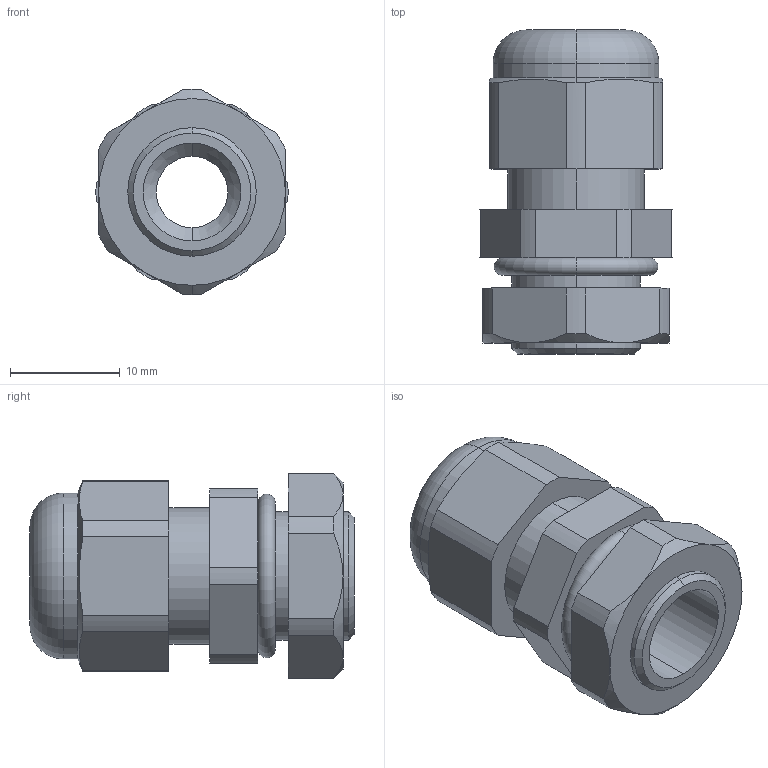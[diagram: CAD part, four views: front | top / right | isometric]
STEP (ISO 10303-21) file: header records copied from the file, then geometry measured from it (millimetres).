
FILE_DESCRIPTION (( 'STEP AP203' ), '1' );
FILE_NAME ('CH-M12.STEP', '2018-02-07T14:48:34', ( '' ), ( '' ), 'SwSTEP 2.0', 'SolidWorks 2012', '' );
FILE_SCHEMA (( 'CONFIG_CONTROL_DESIGN' ));
Length unit declared in the file: millimetre
Products named in the file (1): CH-M12
Bounding box: 17.49 x 29.5 x 18.7 mm (x, y, z)
Volume: 4087 mm3; surface area: 2999.6 mm2
Topology: 1 solids, 1 shells, 78 faces, 189 edges, 118 vertices
Faces by surface type: cylinder 34, plane 25, cone 15, torus 4
Entity records: 2438 total; most frequent: CARTESIAN_POINT 492, DIRECTION 415, ORIENTED_EDGE 378, EDGE_CURVE 189, AXIS2_PLACEMENT_3D 165, VERTEX_POINT 118, CIRCLE 86, VECTOR 85
